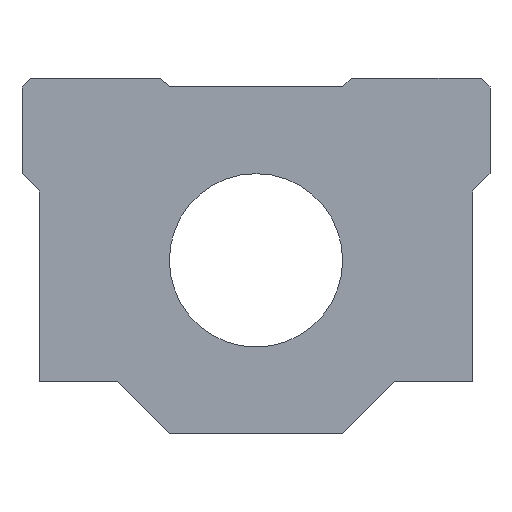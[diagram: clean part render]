
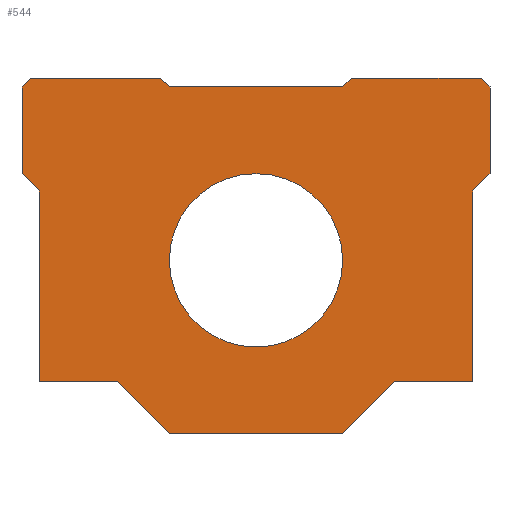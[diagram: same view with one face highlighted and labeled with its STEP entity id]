
A CAD part, left-side view. The second image highlights one B-rep face of the part: STEP entity #544.
In plain terms, the highlighted planar face has unit normal (-1, 0, 0).
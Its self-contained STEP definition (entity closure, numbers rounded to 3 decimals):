
#20=LINE('',#747,#74);
#24=LINE('',#772,#78);
#28=LINE('',#796,#82);
#31=LINE('',#802,#85);
#34=LINE('',#808,#88);
#37=LINE('',#814,#91);
#40=LINE('',#820,#94);
#43=LINE('',#826,#97);
#46=LINE('',#832,#100);
#49=LINE('',#838,#103);
#60=LINE('',#859,#114);
#62=LINE('',#863,#116);
#64=LINE('',#867,#118);
#66=LINE('',#871,#120);
#68=LINE('',#875,#122);
#70=LINE('',#878,#124);
#71=LINE('',#881,#125);
#73=LINE('',#884,#127);
#74=VECTOR('',#606,10.);
#78=VECTOR('',#632,10.);
#82=VECTOR('',#658,10.);
#85=VECTOR('',#663,10.);
#88=VECTOR('',#668,10.);
#91=VECTOR('',#673,10.);
#94=VECTOR('',#678,10.);
#97=VECTOR('',#683,10.);
#100=VECTOR('',#688,10.);
#103=VECTOR('',#693,10.);
#114=VECTOR('',#708,10.);
#116=VECTOR('',#712,10.);
#118=VECTOR('',#716,10.);
#120=VECTOR('',#720,10.);
#122=VECTOR('',#724,10.);
#124=VECTOR('',#728,10.);
#125=VECTOR('',#731,10.);
#127=VECTOR('',#735,10.);
#147=PLANE('',#595);
#166=FACE_BOUND('',#243,.T.);
#195=FACE_OUTER_BOUND('',#242,.T.);
#242=EDGE_LOOP('',(#493,#494,#495,#496,#497,#498,#499,#500,#501,#502,#503,
#504,#505,#506,#507,#508,#509,#510));
#243=EDGE_LOOP('',(#511));
#257=CIRCLE('',#577,10.);
#260=VERTEX_POINT('',#745);
#261=VERTEX_POINT('',#746);
#270=VERTEX_POINT('',#770);
#271=VERTEX_POINT('',#771);
#279=VERTEX_POINT('',#792);
#280=VERTEX_POINT('',#795);
#282=VERTEX_POINT('',#801);
#284=VERTEX_POINT('',#807);
#286=VERTEX_POINT('',#813);
#288=VERTEX_POINT('',#819);
#290=VERTEX_POINT('',#825);
#292=VERTEX_POINT('',#831);
#294=VERTEX_POINT('',#837);
#302=VERTEX_POINT('',#858);
#303=VERTEX_POINT('',#862);
#304=VERTEX_POINT('',#866);
#305=VERTEX_POINT('',#870);
#306=VERTEX_POINT('',#874);
#307=VERTEX_POINT('',#880);
#310=EDGE_CURVE('',#260,#261,#20,.T.);
#320=EDGE_CURVE('',#270,#271,#24,.T.);
#329=EDGE_CURVE('',#279,#279,#257,.T.);
#330=EDGE_CURVE('',#271,#280,#28,.T.);
#333=EDGE_CURVE('',#282,#270,#31,.T.);
#336=EDGE_CURVE('',#284,#282,#34,.T.);
#339=EDGE_CURVE('',#286,#284,#37,.T.);
#342=EDGE_CURVE('',#288,#286,#40,.T.);
#345=EDGE_CURVE('',#290,#288,#43,.T.);
#348=EDGE_CURVE('',#292,#290,#46,.T.);
#351=EDGE_CURVE('',#294,#292,#49,.T.);
#362=EDGE_CURVE('',#302,#294,#60,.T.);
#364=EDGE_CURVE('',#303,#302,#62,.T.);
#366=EDGE_CURVE('',#304,#303,#64,.T.);
#368=EDGE_CURVE('',#305,#304,#66,.T.);
#370=EDGE_CURVE('',#306,#305,#68,.T.);
#372=EDGE_CURVE('',#261,#306,#70,.T.);
#373=EDGE_CURVE('',#307,#260,#71,.T.);
#375=EDGE_CURVE('',#280,#307,#73,.T.);
#493=ORIENTED_EDGE('',*,*,#351,.F.);
#494=ORIENTED_EDGE('',*,*,#362,.F.);
#495=ORIENTED_EDGE('',*,*,#364,.F.);
#496=ORIENTED_EDGE('',*,*,#366,.F.);
#497=ORIENTED_EDGE('',*,*,#368,.F.);
#498=ORIENTED_EDGE('',*,*,#370,.F.);
#499=ORIENTED_EDGE('',*,*,#372,.F.);
#500=ORIENTED_EDGE('',*,*,#310,.F.);
#501=ORIENTED_EDGE('',*,*,#373,.F.);
#502=ORIENTED_EDGE('',*,*,#375,.F.);
#503=ORIENTED_EDGE('',*,*,#330,.F.);
#504=ORIENTED_EDGE('',*,*,#320,.F.);
#505=ORIENTED_EDGE('',*,*,#333,.F.);
#506=ORIENTED_EDGE('',*,*,#336,.F.);
#507=ORIENTED_EDGE('',*,*,#339,.F.);
#508=ORIENTED_EDGE('',*,*,#342,.F.);
#509=ORIENTED_EDGE('',*,*,#345,.F.);
#510=ORIENTED_EDGE('',*,*,#348,.F.);
#511=ORIENTED_EDGE('',*,*,#329,.T.);
#544=ADVANCED_FACE('',(#195,#166),#147,.F.);
#577=AXIS2_PLACEMENT_3D('',#793,#654,#655);
#595=AXIS2_PLACEMENT_3D('',#885,#736,#737);
#606=DIRECTION('',(0.,-1.,0.));
#632=DIRECTION('',(0.,-1.,0.));
#654=DIRECTION('center_axis',(1.,0.,0.));
#655=DIRECTION('ref_axis',(0.,-1.,0.));
#658=DIRECTION('',(0.,-0.707,-0.707));
#663=DIRECTION('',(0.,-0.707,0.707));
#668=DIRECTION('',(0.,0.,1.));
#673=DIRECTION('',(0.,0.707,0.707));
#678=DIRECTION('',(0.,0.,1.));
#683=DIRECTION('',(0.,1.,0.));
#688=DIRECTION('',(0.,0.707,0.707));
#693=DIRECTION('',(0.,1.,0.));
#708=DIRECTION('',(0.,0.707,-0.707));
#712=DIRECTION('',(0.,1.,0.));
#716=DIRECTION('',(0.,0.,-1.));
#720=DIRECTION('',(0.,0.707,-0.707));
#724=DIRECTION('',(0.,0.,-1.));
#728=DIRECTION('',(0.,-0.707,-0.707));
#731=DIRECTION('',(0.,-0.707,0.707));
#735=DIRECTION('',(0.,-1.,0.));
#736=DIRECTION('center_axis',(1.,0.,0.));
#737=DIRECTION('ref_axis',(0.,0.,-1.));
#745=CARTESIAN_POINT('',(0.,-11.,21.));
#746=CARTESIAN_POINT('',(0.,-26.,21.));
#747=CARTESIAN_POINT('',(0.,-11.,21.));
#770=CARTESIAN_POINT('',(0.,26.,21.));
#771=CARTESIAN_POINT('',(0.,11.,21.));
#772=CARTESIAN_POINT('',(0.,26.,21.));
#792=CARTESIAN_POINT('',(0.,10.,0.));
#793=CARTESIAN_POINT('Origin',(0.,0.,0.));
#795=CARTESIAN_POINT('',(0.,10.,20.));
#796=CARTESIAN_POINT('',(0.,11.,21.));
#801=CARTESIAN_POINT('',(0.,27.,20.));
#802=CARTESIAN_POINT('',(0.,27.,20.));
#807=CARTESIAN_POINT('',(0.,27.,10.));
#808=CARTESIAN_POINT('',(0.,27.,10.));
#813=CARTESIAN_POINT('',(0.,25.,8.));
#814=CARTESIAN_POINT('',(0.,25.,8.));
#819=CARTESIAN_POINT('',(0.,25.,-14.));
#820=CARTESIAN_POINT('',(0.,25.,-14.));
#825=CARTESIAN_POINT('',(0.,16.,-14.));
#826=CARTESIAN_POINT('',(0.,16.,-14.));
#831=CARTESIAN_POINT('',(0.,10.,-20.));
#832=CARTESIAN_POINT('',(0.,10.,-20.));
#837=CARTESIAN_POINT('',(0.,-10.,-20.));
#838=CARTESIAN_POINT('',(0.,-10.,-20.));
#858=CARTESIAN_POINT('',(0.,-16.,-14.));
#859=CARTESIAN_POINT('',(0.,-16.,-14.));
#862=CARTESIAN_POINT('',(0.,-25.,-14.));
#863=CARTESIAN_POINT('',(0.,-25.,-14.));
#866=CARTESIAN_POINT('',(0.,-25.,8.));
#867=CARTESIAN_POINT('',(0.,-25.,8.));
#870=CARTESIAN_POINT('',(0.,-27.,10.));
#871=CARTESIAN_POINT('',(0.,-27.,10.));
#874=CARTESIAN_POINT('',(0.,-27.,20.));
#875=CARTESIAN_POINT('',(0.,-27.,20.));
#878=CARTESIAN_POINT('',(0.,-26.,21.));
#880=CARTESIAN_POINT('',(0.,-10.,20.));
#881=CARTESIAN_POINT('',(0.,-10.,20.));
#884=CARTESIAN_POINT('',(0.,10.,20.));
#885=CARTESIAN_POINT('Origin',(0.,-12.434,1.63));
